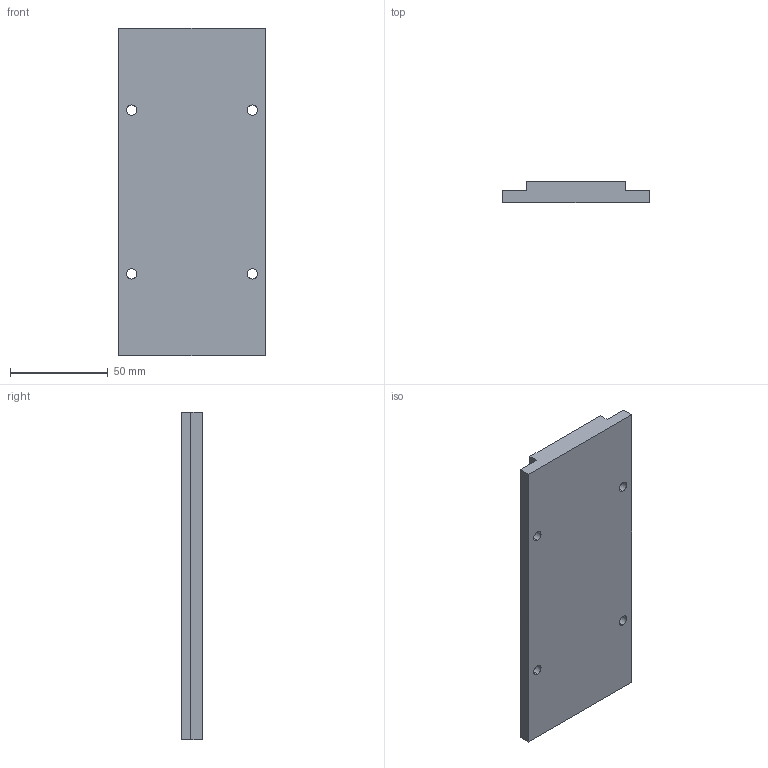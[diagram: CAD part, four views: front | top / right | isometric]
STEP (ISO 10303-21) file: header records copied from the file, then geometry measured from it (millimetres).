
FILE_DESCRIPTION (( 'STEP AP214' ), '1' );
FILE_NAME ('TLM-75-L168.STEP', '2022-05-12T08:03:31', ( 'Microsoft' ), ( 'Microsoft' ), 'SwSTEP 2.0', 'SolidWorks 2016', '' );
FILE_SCHEMA (( 'AUTOMOTIVE_DESIGN' ));
Length unit declared in the file: millimetre
Products named in the file (1): TLM-75-L168
Bounding box: 75 x 10.8 x 168 mm (x, y, z)
Volume: 116025.8 mm3; surface area: 30536.4 mm2
Topology: 1 solids, 1 shells, 30 faces, 72 edges, 48 vertices
Faces by surface type: cylinder 16, plane 14
Entity records: 938 total; most frequent: DIRECTION 166, CARTESIAN_POINT 151, ORIENTED_EDGE 144, EDGE_CURVE 72, AXIS2_PLACEMENT_3D 63, VERTEX_POINT 48, EDGE_LOOP 42, VECTOR 40
